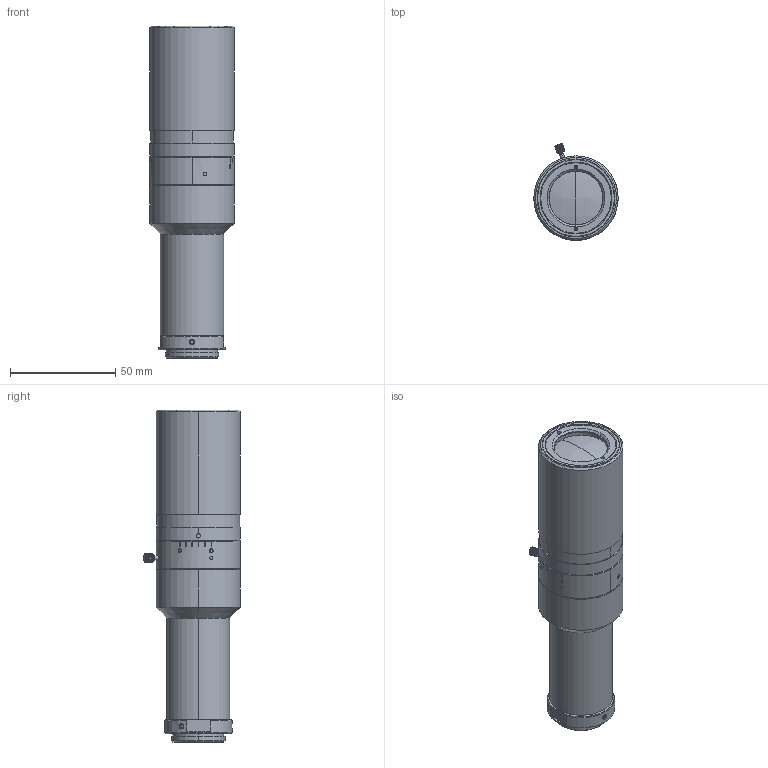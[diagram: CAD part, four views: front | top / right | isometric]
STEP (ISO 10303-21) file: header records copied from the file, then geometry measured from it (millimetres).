
FILE_DESCRIPTION (( 'STEP AP214' ), '1' );
FILE_NAME ('MML3-SR65VI-18C.STEP', '2026-02-17T07:05:27', ( '' ), ( '' ), 'SwSTEP 2.0', 'SolidWorks 2025', '' );
FILE_SCHEMA (( 'AUTOMOTIVE_DESIGN' ));
Length unit declared in the file: millimetre
Products named in the file (1): MML3-SR65VI-18C
Bounding box: 40 x 45.97 x 157.53 mm (x, y, z)
Volume: 140161 mm3; surface area: 26014.3 mm2
Topology: 1 solids, 1 shells, 514 faces, 1329 edges, 863 vertices
Faces by surface type: cylinder 198, plane 165, cone 77, bspline 68, sphere 4, torus 2
Entity records: 25197 total; most frequent: CARTESIAN_POINT 13448, ORIENTED_EDGE 2658, DIRECTION 2092, EDGE_CURVE 1329, VERTEX_POINT 863, AXIS2_PLACEMENT_3D 805, EDGE_LOOP 568, FACE_OUTER_BOUND 514
